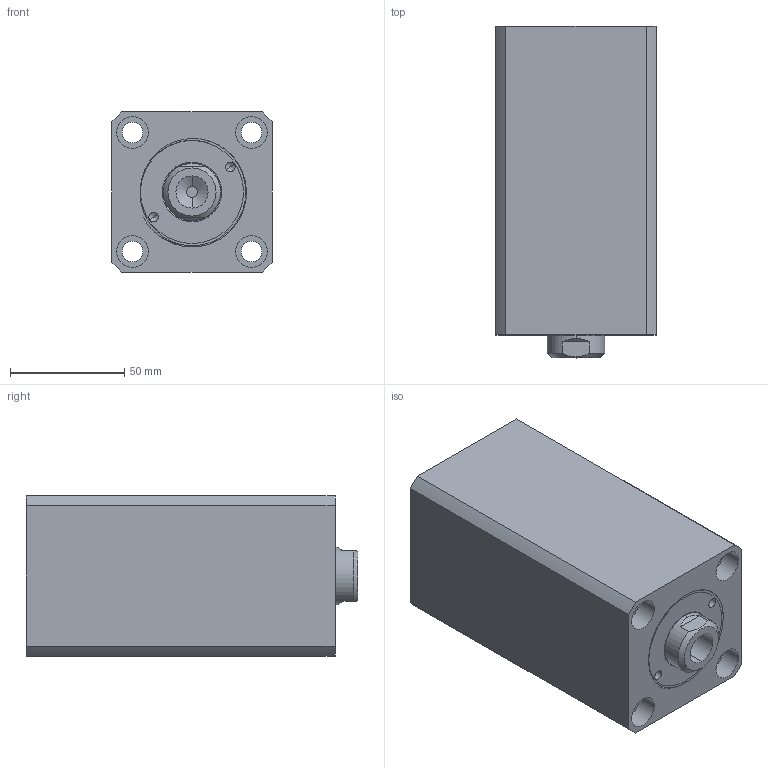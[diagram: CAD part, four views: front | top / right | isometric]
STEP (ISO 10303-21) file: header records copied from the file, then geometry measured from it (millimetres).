
FILE_DESCRIPTION (( 'STEP AP214' ), '1' );
FILE_NAME ('chtb-sd40x80n_asm.STEP', '2018-06-07T07:58:25', ( 'Windows' ), ( 'Microsoft' ), 'SwSTEP 2.0', 'SolidWorks 2015', '' );
FILE_SCHEMA (( 'AUTOMOTIVE_DESIGN' ));
Length unit declared in the file: millimetre
Products named in the file (4): CHTB-SD40X80NBT; CHTB-SD40X80NHSG; chtb-sd40x80n_asm; CHTB-SD40QG
Assembly tree (3 placements, depth 2):
  chtb-sd40x80n_asm
    CHTB-SD40X80NHSG
    CHTB-SD40X80NBT
    CHTB-SD40QG
Bounding box: 70 x 145 x 70 mm (x, y, z)
Volume: 546136.3 mm3; surface area: 106763.2 mm2
Topology: 3 solids, 3 shells, 157 faces, 401 edges, 266 vertices
Faces by surface type: cylinder 80, plane 36, torus 14, bspline 14, cone 13
Entity records: 9977 total; most frequent: CARTESIAN_POINT 6053, ORIENTED_EDGE 790, DIRECTION 768, EDGE_CURVE 395, AXIS2_PLACEMENT_3D 328, VERTEX_POINT 266, EDGE_LOOP 193, CIRCLE 179
